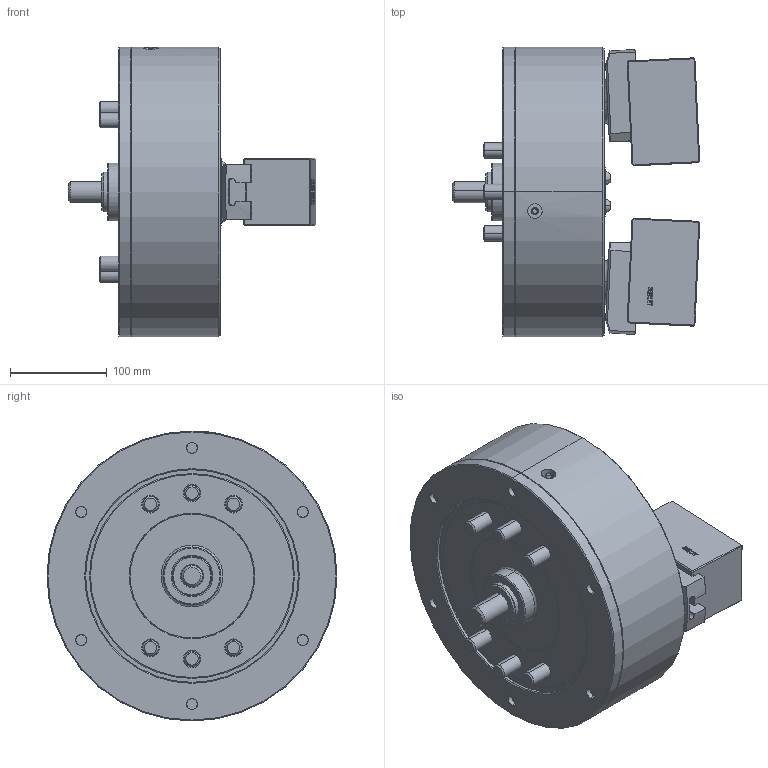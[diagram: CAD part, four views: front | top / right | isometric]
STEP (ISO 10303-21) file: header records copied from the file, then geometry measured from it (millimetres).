
FILE_DESCRIPTION (( 'STEP AP214' ), '1' );
FILE_NAME ('PWT12_UC_OD.STEP', '2019-10-23T00:08:21', ( '' ), ( '' ), 'SwSTEP 2.0', 'SolidWorks 2017', '' );
FILE_SCHEMA (( 'AUTOMOTIVE_DESIGN' ));
Length unit declared in the file: millimetre
Products named in the file (5): 結合_OD; 0030116025; 61P332346; 61P420193; PWT12_UC_OD
Assembly tree (9 placements, depth 2):
  PWT12_UC_OD
    61P420193  x2
    61P332346  x2
    0030116025  x4
    結合_OD
Bounding box: 256.15 x 300 x 300 mm (x, y, z)
Volume: 8453255.3 mm3; surface area: 517934.7 mm2
Topology: 9 solids, 10 shells, 1671 faces, 4094 edges, 2560 vertices
Faces by surface type: plane 879, cone 271, bspline 233, cylinder 230, torus 54, sphere 4
Entity records: 48797 total; most frequent: CARTESIAN_POINT 16859, ORIENTED_EDGE 6844, DIRECTION 5983, EDGE_CURVE 3422, VERTEX_POINT 2155, LINE 2013, VECTOR 2013, AXIS2_PLACEMENT_3D 1985
